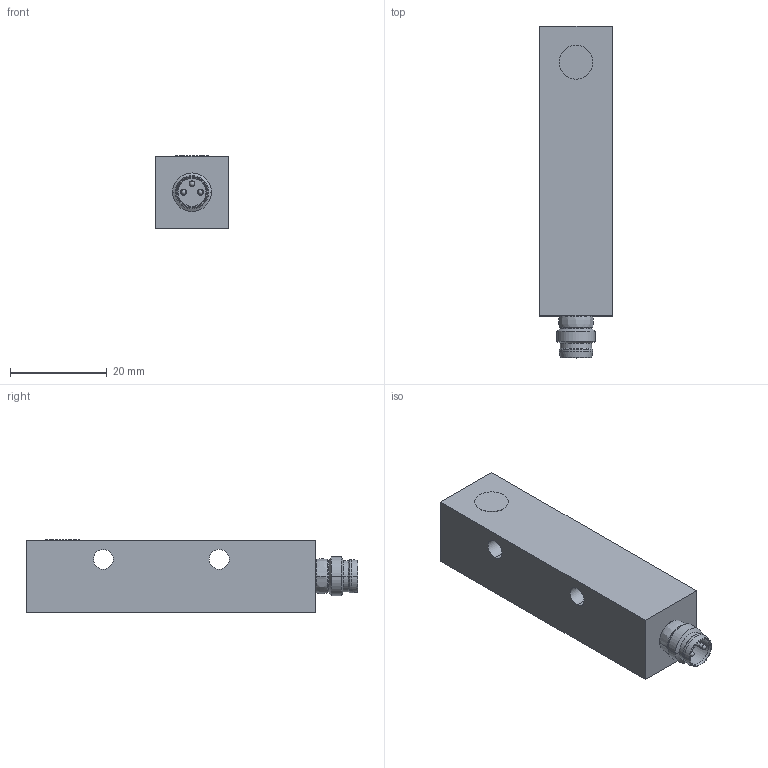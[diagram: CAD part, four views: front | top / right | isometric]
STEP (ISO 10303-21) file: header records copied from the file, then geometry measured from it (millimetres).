
FILE_DESCRIPTION(('STEP AP214'),'1');
FILE_NAME('C:/Users/Thomas/Desktop/3D-Test/tmp0.STEP','2020-06-25T14:05:54',(' '),(' '),'Spatial InterOp 3D',' ',' ');
FILE_SCHEMA(('automotive_design'));
Length unit declared in the file: millimetre
Products named in the file (2): 1; osen19B4259Bo797
Bounding box: 15 x 68.7 x 15.1 mm (x, y, z)
Volume: 13327.1 mm3; surface area: 4851.9 mm2
Topology: 2 solids, 3 shells, 69 faces, 147 edges, 87 vertices
Faces by surface type: cylinder 22, plane 20, cone 16, torus 6, sphere 3, bspline 2
Entity records: 2476 total; most frequent: CARTESIAN_POINT 359, DIRECTION 354, ORIENTED_EDGE 282, AXIS2_PLACEMENT_3D 146, EDGE_CURVE 141, VERTEX_POINT 87, EDGE_LOOP 82, CIRCLE 77
